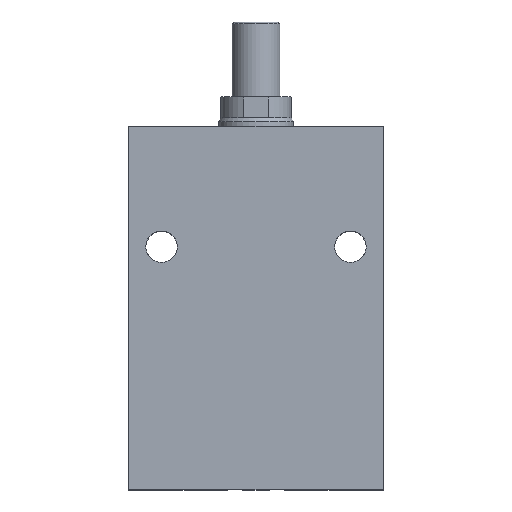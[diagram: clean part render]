
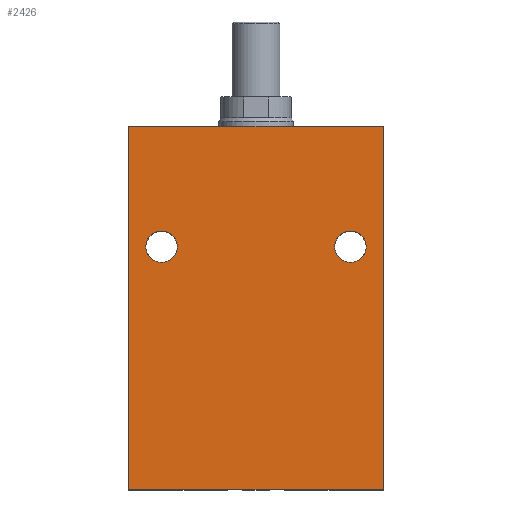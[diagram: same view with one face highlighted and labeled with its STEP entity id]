
A CAD part, top view. The second image highlights one B-rep face of the part: STEP entity #2426.
In plain terms, the highlighted planar face has unit normal (0, 0, 1).
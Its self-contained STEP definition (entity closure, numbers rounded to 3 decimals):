
#15 = ORIENTED_EDGE ( 'NONE', *, *, #2840, .T. ) ;
#16 = VERTEX_POINT ( 'NONE', #2080 ) ;
#74 = VECTOR ( 'NONE', #1007, 1000. ) ;
#181 = ORIENTED_EDGE ( 'NONE', *, *, #435, .F. ) ;
#257 = DIRECTION ( 'NONE',  ( 1., 0., 0. ) ) ;
#317 = CARTESIAN_POINT ( 'NONE',  ( -31.5, 81., 31.5 ) ) ;
#323 = LINE ( 'NONE', #1273, #2756 ) ;
#435 = EDGE_CURVE ( 'NONE', #2175, #1538, #466, .T. ) ;
#466 = CIRCLE ( 'NONE', #3882, 5.25 ) ;
#647 = DIRECTION ( 'NONE',  ( 1., 0., 0. ) ) ;
#697 = CARTESIAN_POINT ( 'NONE',  ( -42.5, 121., 31.5 ) ) ;
#703 = VERTEX_POINT ( 'NONE', #1501 ) ;
#732 = EDGE_CURVE ( 'NONE', #1672, #703, #3614, .T. ) ;
#743 = ORIENTED_EDGE ( 'NONE', *, *, #1434, .T. ) ;
#855 = ORIENTED_EDGE ( 'NONE', *, *, #997, .F. ) ;
#893 = CARTESIAN_POINT ( 'NONE',  ( -26.25, 81., 31.5 ) ) ;
#923 = CARTESIAN_POINT ( 'NONE',  ( -31.5, 81., 31.5 ) ) ;
#932 = ORIENTED_EDGE ( 'NONE', *, *, #966, .F. ) ;
#966 = EDGE_CURVE ( 'NONE', #703, #1672, #2824, .T. ) ;
#970 = FACE_BOUND ( 'NONE', #3242, .T. ) ;
#997 = EDGE_CURVE ( 'NONE', #1248, #1610, #1026, .T. ) ;
#998 = DIRECTION ( 'NONE',  ( 0., 0., 1. ) ) ;
#1007 = DIRECTION ( 'NONE',  ( 1., 0., 0. ) ) ;
#1026 = LINE ( 'NONE', #697, #74 ) ;
#1114 = VECTOR ( 'NONE', #3092, 1000. ) ;
#1235 = DIRECTION ( 'NONE',  ( 1., 0., 0. ) ) ;
#1248 = VERTEX_POINT ( 'NONE', #3530 ) ;
#1273 = CARTESIAN_POINT ( 'NONE',  ( 42.5, 71., 31.5 ) ) ;
#1274 = ORIENTED_EDGE ( 'NONE', *, *, #732, .F. ) ;
#1291 = DIRECTION ( 'NONE',  ( -1., 0., 0. ) ) ;
#1351 = EDGE_LOOP ( 'NONE', ( #15, #1685, #855, #743 ) ) ;
#1420 = AXIS2_PLACEMENT_3D ( 'NONE', #4085, #2165, #257 ) ;
#1434 = EDGE_CURVE ( 'NONE', #1248, #2988, #3671, .T. ) ;
#1477 = VECTOR ( 'NONE', #2056, 1000. ) ;
#1501 = CARTESIAN_POINT ( 'NONE',  ( 26.25, 81., 31.5 ) ) ;
#1533 = EDGE_CURVE ( 'NONE', #1538, #2175, #2534, .T. ) ;
#1538 = VERTEX_POINT ( 'NONE', #2181 ) ;
#1551 = AXIS2_PLACEMENT_3D ( 'NONE', #2897, #998, #3228 ) ;
#1595 = ORIENTED_EDGE ( 'NONE', *, *, #1533, .F. ) ;
#1610 = VERTEX_POINT ( 'NONE', #4037 ) ;
#1672 = VERTEX_POINT ( 'NONE', #3425 ) ;
#1675 = AXIS2_PLACEMENT_3D ( 'NONE', #923, #3149, #1235 ) ;
#1685 = ORIENTED_EDGE ( 'NONE', *, *, #2317, .F. ) ;
#1702 = FACE_OUTER_BOUND ( 'NONE', #1351, .T. ) ;
#1908 = PLANE ( 'NONE',  #2011 ) ;
#2011 = AXIS2_PLACEMENT_3D ( 'NONE', #2240, #3208, #1291 ) ;
#2041 = CARTESIAN_POINT ( 'NONE',  ( -42.5, 0., 31.5 ) ) ;
#2056 = DIRECTION ( 'NONE',  ( 1., 0., 0. ) ) ;
#2080 = CARTESIAN_POINT ( 'NONE',  ( 42.5, 0., 31.5 ) ) ;
#2165 = DIRECTION ( 'NONE',  ( 0., 0., 1. ) ) ;
#2175 = VERTEX_POINT ( 'NONE', #893 ) ;
#2181 = CARTESIAN_POINT ( 'NONE',  ( -36.75, 81., 31.5 ) ) ;
#2240 = CARTESIAN_POINT ( 'NONE',  ( -42.5, 71., 31.5 ) ) ;
#2317 = EDGE_CURVE ( 'NONE', #1610, #16, #323, .T. ) ;
#2337 = LINE ( 'NONE', #2041, #1477 ) ;
#2426 = ADVANCED_FACE ( 'NONE', ( #970, #2566, #1702 ), #1908, .F. ) ;
#2452 = CARTESIAN_POINT ( 'NONE',  ( -42.5, 71., 31.5 ) ) ;
#2534 = CIRCLE ( 'NONE', #1675, 5.25 ) ;
#2556 = DIRECTION ( 'NONE',  ( 0., 0., 1. ) ) ;
#2566 = FACE_BOUND ( 'NONE', #2777, .T. ) ;
#2609 = CARTESIAN_POINT ( 'NONE',  ( -42.5, 0., 31.5 ) ) ;
#2756 = VECTOR ( 'NONE', #2827, 1000. ) ;
#2777 = EDGE_LOOP ( 'NONE', ( #181, #1595 ) ) ;
#2824 = CIRCLE ( 'NONE', #1551, 5.25 ) ;
#2827 = DIRECTION ( 'NONE',  ( 0., -1., 0. ) ) ;
#2840 = EDGE_CURVE ( 'NONE', #2988, #16, #2337, .T. ) ;
#2897 = CARTESIAN_POINT ( 'NONE',  ( 31.5, 81., 31.5 ) ) ;
#2988 = VERTEX_POINT ( 'NONE', #2609 ) ;
#3092 = DIRECTION ( 'NONE',  ( 0., -1., 0. ) ) ;
#3149 = DIRECTION ( 'NONE',  ( 0., 0., 1. ) ) ;
#3208 = DIRECTION ( 'NONE',  ( 0., 0., -1. ) ) ;
#3228 = DIRECTION ( 'NONE',  ( 1., 0., 0. ) ) ;
#3242 = EDGE_LOOP ( 'NONE', ( #1274, #932 ) ) ;
#3425 = CARTESIAN_POINT ( 'NONE',  ( 36.75, 81., 31.5 ) ) ;
#3530 = CARTESIAN_POINT ( 'NONE',  ( -42.5, 121., 31.5 ) ) ;
#3614 = CIRCLE ( 'NONE', #1420, 5.25 ) ;
#3671 = LINE ( 'NONE', #2452, #1114 ) ;
#3882 = AXIS2_PLACEMENT_3D ( 'NONE', #317, #2556, #647 ) ;
#4037 = CARTESIAN_POINT ( 'NONE',  ( 42.5, 121., 31.5 ) ) ;
#4085 = CARTESIAN_POINT ( 'NONE',  ( 31.5, 81., 31.5 ) ) ;
